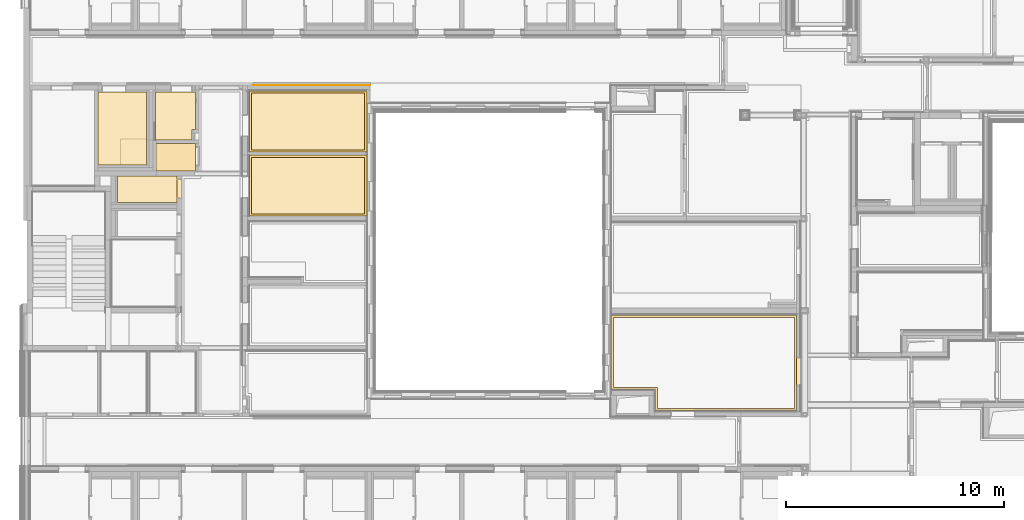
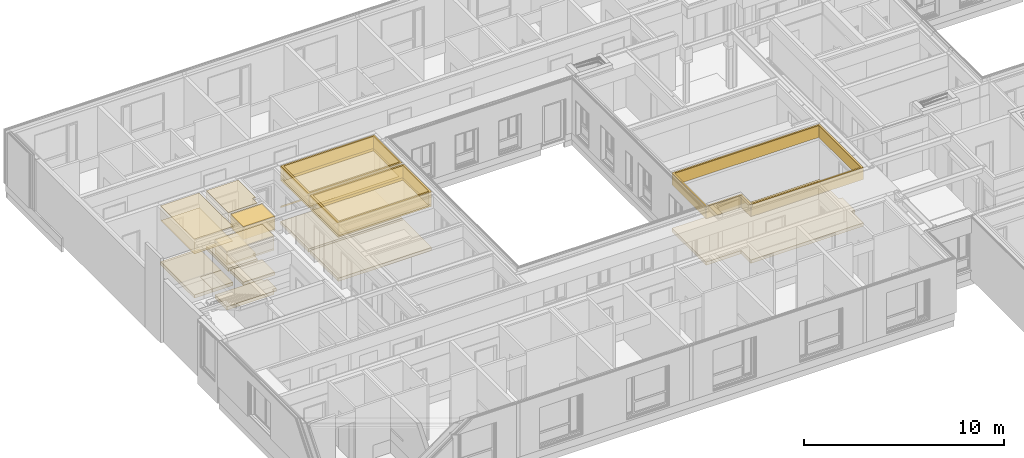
# One storey, part 163 of 207: 39 coverings.
"""IFC4 building model written with IfcOpenShell, lengths in metres."""

from ifc_helpers import new_model, entity, si_unit, converted_unit, derived_unit, frame, frame_2d, origin, origin_with_axes, place, context, subcontext, project, spatial, polyline, rectangle, outline, extrude, material, layer, layer_set, layer_usage, element, save


model = new_model("IFC4")

# Units and contexts
model_context = context("Model", 3, precision=1e-05, world=origin())
body_context = subcontext(model_context, "Body", "Model", "MODEL_VIEW")
ifc_project = project(units=[si_unit("LENGTHUNIT", "METRE"), si_unit("AREAUNIT", "SQUARE_METRE"), si_unit("VOLUMEUNIT", "CUBIC_METRE"), si_unit("MASSUNIT", "GRAM", prefix="KILO"), converted_unit("PLANEANGLEUNIT", "DEGREE", entity("IfcPlaneAngleMeasure", 0.0174532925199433), si_unit("PLANEANGLEUNIT", "RADIAN"), dimensions=[0, 0, 0, 0, 0, 0, 0]), derived_unit("THERMALTRANSMITTANCEUNIT", [(si_unit("POWERUNIT", "WATT"), 1), (si_unit("THERMODYNAMICTEMPERATUREUNIT", "KELVIN"), -1), (si_unit("LENGTHUNIT", "METRE"), -2)]), derived_unit("VOLUMETRICFLOWRATEUNIT", [(si_unit("LENGTHUNIT", "METRE"), 3), (converted_unit("TIMEUNIT", "hour", entity("IfcTimeMeasure", 3600.0), si_unit("TIMEUNIT", "SECOND"), dimensions=[0, 0, 1, 0, 0, 0, 0]), -1), (si_unit("LENGTHUNIT", "METRE"), -1)])], contexts=[model_context])

# Site, building, storey, space
site_placement = place(None, origin())
site = spatial("IfcSite", under=ifc_project, at=site_placement, Name="Psychiatrie Neubau Wunstorf", CompositionType="ELEMENT")
building_placement = place(site_placement, origin())
building = spatial("IfcBuilding", under=site, at=building_placement, Name="Neubau H2 Stationsgebäude", CompositionType="ELEMENT")
storey_placement = place(building_placement, frame((0.0, 0.0, -0.2)))
storey = spatial("IfcBuildingStorey", under=building, at=storey_placement, Name="H2 Ebene 0", CompositionType="ELEMENT", Elevation=-0.2)
space_1_placement = place(storey_placement, frame((0.169000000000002, 21.036, 0.0)))
space_1 = spatial("IfcSpace", under=storey, at=space_1_placement, Name="WUN-H2-E00-F06", CompositionType="ELEMENT")

# Covering
ifc_material_1 = material(Name="97")
ifc_layer_1 = layer(ifc_material_1, 0.001)
ifc_layer_set_1 = layer_set([ifc_layer_1])
ifc_layer_usage_1 = layer_usage(ifc_layer_set_1, "AXIS3", "POSITIVE", 0.0)
covering_1_placement = place(space_1_placement, frame((10.241, 0.8, 0.8)))
element("IfcCovering", 1, at=covering_1_placement, inside=space_1, material=ifc_layer_usage_1, Name="Handlauf", PredefinedType="CLADDING", context=body_context, shape_type="SweptSolid", body=[
    extrude(rectangle(XDim=0.1, YDim=5.379, at=frame_2d((-2.6895, -0.05), x_axis=(0.0, -1.0))), frame((5.379, 0.0, 0.0), z_axis=(0.0, 1.0, 0.0), x_axis=(1.0, 0.0, 0.0)), (0.0, 0.0, 1.0), 0.001),
])

# Space
space_2_placement = place(storey_placement, frame((5.95511096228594, 17.8860132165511, 0.0)))
space_2 = spatial("IfcSpace", under=storey, at=space_2_placement, Name="WUN-H2-E00-032", CompositionType="ELEMENT")

# Coverings
ifc_material_2 = material()
ifc_layer_2 = layer(ifc_material_2, 0.036)
ifc_layer_set_2 = layer_set([ifc_layer_2])
ifc_layer_usage_2 = layer_usage(ifc_layer_set_2, "AXIS3", "POSITIVE", 0.0)
covering_2_placement = place(space_2_placement, frame((0.0, 0.0, 3.6)))
element("IfcCovering", 2, at=covering_2_placement, inside=space_2, material=ifc_layer_usage_2, Name="Gipsfaserplatten 2-lagig (BSK)", PredefinedType="CEILING", context=body_context, shape_type="SweptSolid", body=[
    extrude(rectangle(XDim=1.27899724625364, YDim=1.81998678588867, at=frame_2d((-0.909993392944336, 0.639498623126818), x_axis=(0.0, 1.0))), frame((1.81998678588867, 1.27899724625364, 0.0), z_axis=(0.0, 0.0, -1.0), x_axis=(1.0, 0.0, 0.0)), (0.0, 0.0, 1.0), 0.036),
])
ifc_material_3 = material(Name="Installationshöhe")
ifc_layer_3 = layer(ifc_material_3, 0.764)
ifc_layer_set_3 = layer_set([ifc_layer_3])
ifc_layer_usage_3 = layer_usage(ifc_layer_set_3, "AXIS3", "POSITIVE", 0.0)
covering_3_placement = place(space_2_placement, frame((0.0, 0.0, 3.564)))
element("IfcCovering", 3, at=covering_3_placement, inside=space_2, material=ifc_layer_usage_3, Name="Gipsfaserplatten 2-lagig (BSK)", PredefinedType="CEILING", context=body_context, shape_type="SweptSolid", body=[
    extrude(rectangle(XDim=1.27899724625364, YDim=1.81998678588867, at=frame_2d((-0.909993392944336, 0.639498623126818), x_axis=(0.0, 1.0))), frame((1.81998678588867, 1.27899724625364, 0.0), z_axis=(0.0, 0.0, -1.0), x_axis=(1.0, 0.0, 0.0)), (0.0, 0.0, 1.0), 0.764),
])
ifc_material_4 = material(Name="E3")
ifc_layer_4 = layer(ifc_material_4, 0.1)
ifc_layer_set_4 = layer_set([ifc_layer_4])
ifc_layer_usage_4 = layer_usage(ifc_layer_set_4, "AXIS3", "POSITIVE", 0.0)
covering_4_placement = place(space_2_placement, frame((0.0, 0.0, 2.8)))
element("IfcCovering", 4, at=covering_4_placement, inside=space_2, material=ifc_layer_usage_4, Name="Rasterdecke", PredefinedType="CEILING", context=body_context, shape_type="SweptSolid", body=[
    extrude(rectangle(XDim=1.27899724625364, YDim=1.81998678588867, at=frame_2d((-0.909993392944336, 0.639498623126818), x_axis=(0.0, 1.0))), frame((1.81998678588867, 1.27899724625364, 0.0), z_axis=(0.0, 0.0, -1.0), x_axis=(1.0, 0.0, 0.0)), (0.0, 0.0, 1.0), 0.1),
])
ifc_material_5 = material(Name="Ku2")
ifc_layer_5 = layer(ifc_material_5, 0.2)
ifc_layer_set_5 = layer_set([ifc_layer_5])
ifc_layer_usage_5 = layer_usage(ifc_layer_set_5, "AXIS3", "POSITIVE", 0.0)
covering_5_placement = place(space_2_placement, origin())
element("IfcCovering", 5, at=covering_5_placement, inside=space_2, material=ifc_layer_usage_5, Name="PVC Bahnenware Uni", PredefinedType="FLOORING", context=body_context, shape_type="SweptSolid", body=[
    extrude(rectangle(XDim=1.27899724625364, YDim=1.8199867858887, at=frame_2d((-0.909993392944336, 0.639498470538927), x_axis=(0.0, 1.0))), frame((1.81998678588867, 0.0, 0.0), z_axis=(0.0, 0.0, 1.0), x_axis=(1.0, 0.0, 0.0)), (0.0, 0.0, 1.0), 0.2),
])

# Space
space_3_placement = place(storey_placement, frame((4.18999999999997, 16.4520132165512, 0.0)))
space_3 = spatial("IfcSpace", under=storey, at=space_3_placement, Name="WUN-H2-E00-031", CompositionType="ELEMENT")

# Coverings
ifc_material_6 = material(Name="Installationshöhe")
ifc_layer_6 = layer(ifc_material_6, 0.764)
ifc_layer_set_6 = layer_set([ifc_layer_6])
ifc_layer_usage_6 = layer_usage(ifc_layer_set_6, "AXIS3", "POSITIVE", 0.0)
covering_6_placement = place(space_3_placement, frame((0.0, 0.0, 3.564)))
element("IfcCovering", 6, at=covering_6_placement, inside=space_3, material=ifc_layer_usage_6, Name="Gipsfaserplatten 2-lagig (BSK)", PredefinedType="CEILING", context=body_context, shape_type="SweptSolid", body=[
    extrude(rectangle(XDim=2.7189987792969, YDim=1.20199999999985, at=frame_2d((1.35949938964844, 0.600999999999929), x_axis=(1.0, 1.33798471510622e-15))), frame((0.0, 1.20199999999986, 0.0), z_axis=(0.0, 0.0, -1.0), x_axis=(1.0, 0.0, 0.0)), (0.0, 0.0, 1.0), 0.764),
])
ifc_material_7 = material(Name="E3")
ifc_layer_7 = layer(ifc_material_7, 0.1)
ifc_layer_set_7 = layer_set([ifc_layer_7])
ifc_layer_usage_7 = layer_usage(ifc_layer_set_7, "AXIS3", "POSITIVE", 0.0)
covering_7_placement = place(space_3_placement, frame((0.0, 0.0, 2.8)))
element("IfcCovering", 7, at=covering_7_placement, inside=space_3, material=ifc_layer_usage_7, Name="Rasterdecke", PredefinedType="CEILING", context=body_context, shape_type="SweptSolid", body=[
    extrude(rectangle(XDim=2.7189987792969, YDim=1.20199999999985, at=frame_2d((1.35949938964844, 0.600999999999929), x_axis=(1.0, 1.33798471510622e-15))), frame((0.0, 1.20199999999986, 0.0), z_axis=(0.0, 0.0, -1.0), x_axis=(1.0, 0.0, 0.0)), (0.0, 0.0, 1.0), 0.1),
])
ifc_material_8 = material(Name="Fl1")
ifc_layer_8 = layer(ifc_material_8, 0.2)
ifc_layer_set_8 = layer_set([ifc_layer_8])
ifc_layer_usage_8 = layer_usage(ifc_layer_set_8, "AXIS3", "POSITIVE", 0.0)
covering_8_placement = place(space_3_placement, origin())
element("IfcCovering", 8, at=covering_8_placement, inside=space_3, material=ifc_layer_usage_8, Name="Fliesen", PredefinedType="FLOORING", context=body_context, shape_type="SweptSolid", body=[
    extrude(rectangle(XDim=0.232, YDim=0.885, at=frame_2d((0.116, 0.4425), x_axis=(1.0, 0.0))), frame((2.7189987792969, 0.178001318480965, 0.0), z_axis=(0.0, 0.0, 1.0), x_axis=(1.0, 0.0, 0.0)), (0.0, 0.0, 1.0), 0.2),
    extrude(rectangle(XDim=2.7189987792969, YDim=1.20199999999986, at=frame_2d((-1.35949938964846, -0.600999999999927), x_axis=(-1.0, 1.33798471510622e-15))), frame((2.71899877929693, 1.20199999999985, 0.0), z_axis=(0.0, 0.0, 1.0), x_axis=(1.0, 0.0, 0.0)), (0.0, 0.0, 1.0), 0.2),
])

# Space
space_4_placement = place(storey_placement, frame((3.28900622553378, 18.1609747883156, 0.0)))
space_4 = spatial("IfcSpace", under=storey, at=space_4_placement, Name="WUN-H2-E00-039", CompositionType="ELEMENT")

# Coverings
ifc_material_9 = material(Name="Fl1")
ifc_layer_9 = layer(ifc_material_9, 0.2)
ifc_layer_set_9 = layer_set([ifc_layer_9])
ifc_layer_usage_9 = layer_usage(ifc_layer_set_9, "AXIS3", "POSITIVE", 0.0)
covering_9_placement = place(space_4_placement, origin())
element("IfcCovering", 9, at=covering_9_placement, inside=space_4, material=ifc_layer_usage_9, Name="Fliesen", PredefinedType="FLOORING", context=body_context, shape_type="SweptSolid", body=[
    extrude(outline(polyline([(2.23139340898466, 0.0), (2.23150193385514, 0.0), (2.23150193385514, 3.36802521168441), (0.0, 3.36802521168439), (0.0, 0.0), (1.03100120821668, 0.0), (1.03100120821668, 1.20000040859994), (2.23139340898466, 1.20000040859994), (2.23139340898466, 0.0)])), origin_with_axes(), (0.0, 0.0, 1.0), 0.2),
])
ifc_material_10 = material(Name="Fl2")
ifc_layer_10 = layer(ifc_material_10, 0.2)
ifc_layer_set_10 = layer_set([ifc_layer_10])
ifc_layer_usage_10 = layer_usage(ifc_layer_set_10, "AXIS3", "POSITIVE", 0.0)
covering_10_placement = place(space_4_placement, frame((1.03100120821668, 0.0, 0.0)))
element("IfcCovering", 10, at=covering_10_placement, inside=space_4, material=ifc_layer_usage_10, Name="Fliesen Mosaik", PredefinedType="FLOORING", context=body_context, shape_type="SweptSolid", body=[
    extrude(rectangle(XDim=1.20000040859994, YDim=1.20039220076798, at=frame_2d((0.600196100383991, -0.600000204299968), x_axis=(0.0, -1.0))), frame((0.0, 1.20000040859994, 0.0), z_axis=(0.0, 0.0, 1.0), x_axis=(1.0, 0.0, 0.0)), (0.0, 0.0, 1.0), 0.2),
])
ifc_material_11 = material()
ifc_layer_11 = layer(ifc_material_11, 0.036)
ifc_layer_set_11 = layer_set([ifc_layer_11])
ifc_layer_usage_11 = layer_usage(ifc_layer_set_11, "AXIS3", "POSITIVE", 0.0)
covering_11_placement = place(space_4_placement, frame((0.0, 0.0, 3.6)))
element("IfcCovering", 11, at=covering_11_placement, inside=space_4, material=ifc_layer_usage_11, Name="Gipsfaserplatten 2-lagig (BSK)", PredefinedType="CEILING", context=body_context, shape_type="SweptSolid", body=[
    extrude(rectangle(XDim=3.36802521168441, YDim=2.23150193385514, at=frame_2d((-1.11575096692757, 1.6840126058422), x_axis=(0.0, 1.0))), frame((2.23150193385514, 3.36802521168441, 0.0), z_axis=(0.0, 0.0, -1.0), x_axis=(1.0, 0.0, 0.0)), (0.0, 0.0, 1.0), 0.036),
])
ifc_material_12 = material(Name="Installationshöhe")
ifc_layer_12 = layer(ifc_material_12, 0.764)
ifc_layer_set_12 = layer_set([ifc_layer_12])
ifc_layer_usage_12 = layer_usage(ifc_layer_set_12, "AXIS3", "POSITIVE", 0.0)
covering_12_placement = place(space_4_placement, frame((0.0, 0.0, 3.564)))
element("IfcCovering", 12, at=covering_12_placement, inside=space_4, material=ifc_layer_usage_12, Name="Gipsfaserplatten 2-lagig (BSK)", PredefinedType="CEILING", context=body_context, shape_type="SweptSolid", body=[
    extrude(rectangle(XDim=3.36802521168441, YDim=2.23150193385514, at=frame_2d((-1.11575096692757, 1.6840126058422), x_axis=(0.0, 1.0))), frame((2.23150193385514, 3.36802521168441, 0.0), z_axis=(0.0, 0.0, -1.0), x_axis=(1.0, 0.0, 0.0)), (0.0, 0.0, 1.0), 0.764),
])
ifc_material_13 = material(Name="B")
ifc_layer_13 = layer(ifc_material_13, 0.1)
ifc_layer_set_13 = layer_set([ifc_layer_13])
ifc_layer_usage_13 = layer_usage(ifc_layer_set_13, "AXIS3", "POSITIVE", 0.0)
covering_13_placement = place(space_4_placement, frame((0.0, 0.0, 2.8)))
element("IfcCovering", 13, at=covering_13_placement, inside=space_4, material=ifc_layer_usage_13, Name="Gipskarton, imprägniert", PredefinedType="CEILING", context=body_context, shape_type="SweptSolid", body=[
    extrude(rectangle(XDim=3.36802521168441, YDim=2.23150193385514, at=frame_2d((-1.11575096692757, 1.6840126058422), x_axis=(0.0, 1.0))), frame((2.23150193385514, 3.36802521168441, 0.0), z_axis=(0.0, 0.0, -1.0), x_axis=(1.0, 0.0, 0.0)), (0.0, 0.0, 1.0), 0.1),
])
ifc_material_14 = material(Name="D1")
ifc_layer_14 = layer(ifc_material_14, 0.001)
ifc_layer_set_14 = layer_set([ifc_layer_14])
ifc_layer_usage_14 = layer_usage(ifc_layer_set_14, "AXIS3", "POSITIVE", 0.0)
covering_14_placement = place(space_4_placement, frame((0.0, 0.0, 2.7)))
element("IfcCovering", 14, at=covering_14_placement, inside=space_4, material=ifc_layer_usage_14, Name="Gipsfaserplatten 2-lagig (BSK)", PredefinedType="CEILING", context=body_context, shape_type="SweptSolid", body=[
    extrude(rectangle(XDim=3.36802521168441, YDim=2.23150193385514, at=frame_2d((-1.11575096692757, 1.6840126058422), x_axis=(0.0, 1.0))), frame((2.23150193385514, 3.36802521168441, 0.0), z_axis=(0.0, 0.0, -1.0), x_axis=(1.0, 0.0, 0.0)), (0.0, 0.0, 1.0), 0.001),
])

# Space
space_5_placement = place(storey_placement, frame((5.92050815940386, 19.3150163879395, 0.0)))
space_5 = spatial("IfcSpace", under=storey, at=space_5_placement, Name="WUN-H2-E00-038", CompositionType="ELEMENT")

# Coverings
ifc_material_15 = material()
ifc_layer_15 = layer(ifc_material_15, 0.036)
ifc_layer_set_15 = layer_set([ifc_layer_15])
ifc_layer_usage_15 = layer_usage(ifc_layer_set_15, "AXIS3", "POSITIVE", 0.0)
covering_15_placement = place(space_5_placement, frame((0.0, 0.0, 3.6)))
element("IfcCovering", 15, at=covering_15_placement, inside=space_5, material=ifc_layer_usage_15, Name="Gipsfaserplatten 2-lagig (BSK)", PredefinedType="CEILING", context=body_context, shape_type="SweptSolid", body=[
    extrude(outline(polyline([(0.0, 2.21398361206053), (0.0, 0.0), (1.85448534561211, 0.0), (1.85448534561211, 1.73898984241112), (1.67949184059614, 1.73898984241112), (1.67949184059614, 2.21398361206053), (0.0, 2.21398361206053)])), frame((0.0, 2.21398361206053, 0.0), z_axis=(0.0, 0.0, -1.0), x_axis=(1.0, 0.0, 0.0)), (0.0, 0.0, 1.0), 0.036),
])
ifc_material_16 = material(Name="Installationshöhe")
ifc_layer_16 = layer(ifc_material_16, 0.764)
ifc_layer_set_16 = layer_set([ifc_layer_16])
ifc_layer_usage_16 = layer_usage(ifc_layer_set_16, "AXIS3", "POSITIVE", 0.0)
covering_16_placement = place(space_5_placement, frame((0.0, 0.0, 3.564)))
element("IfcCovering", 16, at=covering_16_placement, inside=space_5, material=ifc_layer_usage_16, Name="Gipsfaserplatten 2-lagig (BSK)", PredefinedType="CEILING", context=body_context, shape_type="SweptSolid", body=[
    extrude(outline(polyline([(0.0, 2.21398361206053), (0.0, 0.0), (1.85448534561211, 0.0), (1.85448534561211, 1.73898984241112), (1.67949184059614, 1.73898984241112), (1.67949184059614, 2.21398361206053), (0.0, 2.21398361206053)])), frame((0.0, 2.21398361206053, 0.0), z_axis=(0.0, 0.0, -1.0), x_axis=(1.0, 0.0, 0.0)), (0.0, 0.0, 1.0), 0.764),
])
ifc_material_17 = material(Name="E3")
ifc_layer_17 = layer(ifc_material_17, 0.1)
ifc_layer_set_17 = layer_set([ifc_layer_17])
ifc_layer_usage_17 = layer_usage(ifc_layer_set_17, "AXIS3", "POSITIVE", 0.0)
covering_17_placement = place(space_5_placement, frame((0.0, 0.0, 2.8)))
element("IfcCovering", 17, at=covering_17_placement, inside=space_5, material=ifc_layer_usage_17, Name="Rasterdecke", PredefinedType="CEILING", context=body_context, shape_type="SweptSolid", body=[
    extrude(outline(polyline([(0.0, 2.21398361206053), (0.0, 0.0), (1.85448534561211, 0.0), (1.85448534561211, 1.73898984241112), (1.67949184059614, 1.73898984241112), (1.67949184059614, 2.21398361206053), (0.0, 2.21398361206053)])), frame((0.0, 2.21398361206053, 0.0), z_axis=(0.0, 0.0, -1.0), x_axis=(1.0, 0.0, 0.0)), (0.0, 0.0, 1.0), 0.1),
])
ifc_material_18 = material(Name="Ku2")
ifc_layer_18 = layer(ifc_material_18, 0.2)
ifc_layer_set_18 = layer_set([ifc_layer_18])
ifc_layer_usage_18 = layer_usage(ifc_layer_set_18, "AXIS3", "POSITIVE", 0.0)
covering_18_placement = place(space_5_placement, origin())
element("IfcCovering", 18, at=covering_18_placement, inside=space_5, material=ifc_layer_usage_18, Name="PVC Bahnenware Uni", PredefinedType="FLOORING", context=body_context, shape_type="SweptSolid", body=[
    extrude(outline(polyline([(0.0, 2.21398361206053), (0.0, 0.0), (1.67949184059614, 0.0), (1.67949184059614, 0.474993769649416), (1.85448534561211, 0.474993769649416), (1.85448534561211, 2.21398361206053), (0.0, 2.21398361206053)])), origin_with_axes(), (0.0, 0.0, 1.0), 0.2),
])

# Space
space_6_placement = place(storey_placement, frame((10.2390000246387, 15.8255, 0.0)))
space_6 = spatial("IfcSpace", under=storey, at=space_6_placement, Name="WUN-H2-E00-034", CompositionType="ELEMENT")

# Coverings
ifc_material_19 = material(Name="Ku1")
ifc_layer_19 = layer(ifc_material_19, 0.2)
ifc_layer_set_19 = layer_set([ifc_layer_19])
ifc_layer_usage_19 = layer_usage(ifc_layer_set_19, "AXIS3", "POSITIVE", 0.0)
covering_19_placement = place(space_6_placement, origin())
element("IfcCovering", 19, at=covering_19_placement, inside=space_6, material=ifc_layer_usage_19, Name="PVC Bahnenware Holzoptik", PredefinedType="FLOORING", context=body_context, shape_type="SweptSolid", body=[
    extrude(rectangle(XDim=2.7925, YDim=5.39999997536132, at=frame_2d((-2.69999998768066, 1.39625), x_axis=(0.0, 1.0))), frame((5.39999997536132, 0.0, 0.0), z_axis=(0.0, 0.0, 1.0), x_axis=(1.0, 0.0, 0.0)), (0.0, 0.0, 1.0), 0.2),
])
ifc_material_20 = material()
ifc_layer_20 = layer(ifc_material_20, 0.036)
ifc_layer_set_20 = layer_set([ifc_layer_20])
ifc_layer_usage_20 = layer_usage(ifc_layer_set_20, "AXIS3", "POSITIVE", 0.0)
covering_20_placement = place(space_6_placement, frame((0.0, 0.0, 3.6)))
element("IfcCovering", 20, at=covering_20_placement, inside=space_6, material=ifc_layer_usage_20, Name="Gipsfaserplatten 2-lagig (BSK)", PredefinedType="CEILING", context=body_context, shape_type="SweptSolid", body=[
    extrude(outline(polyline([(5.39999997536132, 0.0), (5.39999997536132, 2.79250000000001), (0.0, 2.7925), (0.0, 0.0), (5.39999997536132, 0.0)]), holes=[polyline([(0.1, 2.6925), (5.29999997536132, 2.69250000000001), (5.29999997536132, 0.100000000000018), (0.1, 0.100000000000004), (0.1, 2.6925)])]), frame((0.0, 2.79250000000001, 0.0), z_axis=(0.0, 0.0, -1.0), x_axis=(1.0, 0.0, 0.0)), (0.0, 0.0, 1.0), 0.036),
])
ifc_material_21 = material(Name="Installationshöhe")
ifc_layer_21 = layer(ifc_material_21, 0.714)
ifc_layer_set_21 = layer_set([ifc_layer_21])
ifc_layer_usage_21 = layer_usage(ifc_layer_set_21, "AXIS3", "POSITIVE", 0.0)
covering_21_placement = place(space_6_placement, frame((0.0, 0.0, 3.564)))
element("IfcCovering", 21, at=covering_21_placement, inside=space_6, material=ifc_layer_usage_21, Name="Gipsfaserplatten 2-lagig (BSK)", PredefinedType="CEILING", context=body_context, shape_type="SweptSolid", body=[
    extrude(outline(polyline([(5.39999997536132, 0.0), (5.39999997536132, 2.79250000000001), (0.0, 2.7925), (0.0, 0.0), (5.39999997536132, 0.0)]), holes=[polyline([(0.1, 2.6925), (5.29999997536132, 2.69250000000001), (5.29999997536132, 0.100000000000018), (0.1, 0.100000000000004), (0.1, 2.6925)])]), frame((0.0, 2.79250000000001, 0.0), z_axis=(0.0, 0.0, -1.0), x_axis=(1.0, 0.0, 0.0)), (0.0, 0.0, 1.0), 0.714),
])
ifc_material_22 = material(Name="A1")
ifc_layer_22 = layer(ifc_material_22, 0.15)
ifc_layer_set_22 = layer_set([ifc_layer_22])
ifc_layer_usage_22 = layer_usage(ifc_layer_set_22, "AXIS3", "POSITIVE", 0.0)
covering_22_placement = place(space_6_placement, frame((0.0, 0.0, 2.85)))
element("IfcCovering", 22, at=covering_22_placement, inside=space_6, material=ifc_layer_usage_22, Name="Gipsfaserplatten 2-lagig (BSK)", PredefinedType="CEILING", context=body_context, shape_type="SweptSolid", body=[
    extrude(outline(polyline([(5.39999997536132, 0.0), (5.39999997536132, 2.79250000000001), (0.0, 2.7925), (0.0, 0.0), (5.39999997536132, 0.0)]), holes=[polyline([(0.1, 2.6925), (5.29999997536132, 2.69250000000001), (5.29999997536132, 0.100000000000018), (0.1, 0.100000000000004), (0.1, 2.6925)])]), frame((0.0, 2.79250000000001, 0.0), z_axis=(0.0, 0.0, -1.0), x_axis=(1.0, 0.0, 0.0)), (0.0, 0.0, 1.0), 0.15),
])
ifc_material_23 = material(Name="D1")
ifc_layer_23 = layer(ifc_material_23, 0.001)
ifc_layer_set_23 = layer_set([ifc_layer_23])
ifc_layer_usage_23 = layer_usage(ifc_layer_set_23, "AXIS3", "POSITIVE", 0.0)
covering_23_placement = place(space_6_placement, frame((0.0, 0.0, 2.7)))
element("IfcCovering", 23, at=covering_23_placement, inside=space_6, material=ifc_layer_usage_23, Name="Gipsfaserplatten 2-lagig (BSK)", PredefinedType="CEILING", context=body_context, shape_type="SweptSolid", body=[
    extrude(outline(polyline([(5.39999997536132, 0.0), (5.39999997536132, 2.79250000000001), (0.0, 2.7925), (0.0, 0.0), (5.39999997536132, 0.0)]), holes=[polyline([(0.1, 2.6925), (5.29999997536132, 2.69250000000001), (5.29999997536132, 0.100000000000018), (0.1, 0.100000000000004), (0.1, 2.6925)])]), frame((0.0, 2.79250000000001, 0.0), z_axis=(0.0, 0.0, -1.0), x_axis=(1.0, 0.0, 0.0)), (0.0, 0.0, 1.0), 0.001),
])
ifc_material_24 = material()
ifc_layer_24 = layer(ifc_material_24, 0.036)
ifc_layer_set_24 = layer_set([ifc_layer_24])
ifc_layer_usage_24 = layer_usage(ifc_layer_set_24, "AXIS3", "POSITIVE", 0.0)
covering_24_placement = place(space_6_placement, frame((0.1, 0.0999999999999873, 3.6)))
element("IfcCovering", 24, at=covering_24_placement, inside=space_6, material=ifc_layer_usage_24, Name="Gipsfaserplatten 2-lagig (BSK)", PredefinedType="CEILING", context=body_context, shape_type="SweptSolid", body=[
    extrude(rectangle(XDim=2.5925, YDim=5.19999997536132, at=frame_2d((2.59999998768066, -1.29624999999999), x_axis=(0.0, -1.0))), frame((0.0, 0.0, 0.0), z_axis=(0.0, 0.0, -1.0), x_axis=(1.0, 0.0, 0.0)), (0.0, 0.0, 1.0), 0.036),
])
ifc_material_25 = material(Name="Installationshöhe")
ifc_layer_25 = layer(ifc_material_25, 0.714)
ifc_layer_set_25 = layer_set([ifc_layer_25])
ifc_layer_usage_25 = layer_usage(ifc_layer_set_25, "AXIS3", "POSITIVE", 0.0)
covering_25_placement = place(space_6_placement, frame((0.1, 0.0999999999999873, 3.564)))
element("IfcCovering", 25, at=covering_25_placement, inside=space_6, material=ifc_layer_usage_25, Name="Gipsfaserplatten 2-lagig (BSK)", PredefinedType="CEILING", context=body_context, shape_type="SweptSolid", body=[
    extrude(rectangle(XDim=2.5925, YDim=5.19999997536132, at=frame_2d((2.59999998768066, -1.29624999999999), x_axis=(0.0, -1.0))), frame((0.0, 0.0, 0.0), z_axis=(0.0, 0.0, -1.0), x_axis=(1.0, 0.0, 0.0)), (0.0, 0.0, 1.0), 0.714),
])
ifc_material_26 = material(Name="Aa")
ifc_layer_26 = layer(ifc_material_26, 0.15)
ifc_layer_set_26 = layer_set([ifc_layer_26])
ifc_layer_usage_26 = layer_usage(ifc_layer_set_26, "AXIS3", "POSITIVE", 0.0)
covering_26_placement = place(space_6_placement, frame((0.1, 0.0999999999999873, 2.85)))
element("IfcCovering", 26, at=covering_26_placement, inside=space_6, material=ifc_layer_usage_26, Name="Gipsfaserplatten 2-lagig (BSK)", PredefinedType="CEILING", context=body_context, shape_type="SweptSolid", body=[
    extrude(rectangle(XDim=2.5925, YDim=5.19999997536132, at=frame_2d((2.59999998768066, -1.29624999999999), x_axis=(0.0, -1.0))), frame((0.0, 0.0, 0.0), z_axis=(0.0, 0.0, -1.0), x_axis=(1.0, 0.0, 0.0)), (0.0, 0.0, 1.0), 0.15),
])
ifc_material_27 = material(Name="D1")
ifc_layer_27 = layer(ifc_material_27, 0.001)
ifc_layer_set_27 = layer_set([ifc_layer_27])
ifc_layer_usage_27 = layer_usage(ifc_layer_set_27, "AXIS3", "POSITIVE", 0.0)
covering_27_placement = place(space_6_placement, frame((0.1, 0.0999999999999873, 2.7)))
element("IfcCovering", 27, at=covering_27_placement, inside=space_6, material=ifc_layer_usage_27, Name="Gipsfaserplatten 2-lagig (BSK)", PredefinedType="CEILING", context=body_context, shape_type="SweptSolid", body=[
    extrude(rectangle(XDim=2.5925, YDim=5.19999997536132, at=frame_2d((2.59999998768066, -1.29624999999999), x_axis=(0.0, -1.0))), frame((0.0, 0.0, 0.0), z_axis=(0.0, 0.0, -1.0), x_axis=(1.0, 0.0, 0.0)), (0.0, 0.0, 1.0), 0.001),
])

# Space
space_7_placement = place(storey_placement, frame((10.2390000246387, 18.768, 0.0)))
space_7 = spatial("IfcSpace", under=storey, at=space_7_placement, Name="WUN-H2-E00-033", CompositionType="ELEMENT")

# Coverings
ifc_material_28 = material(Name="Ku1")
ifc_layer_28 = layer(ifc_material_28, 0.2)
ifc_layer_set_28 = layer_set([ifc_layer_28])
ifc_layer_usage_28 = layer_usage(ifc_layer_set_28, "AXIS3", "POSITIVE", 0.0)
covering_28_placement = place(space_7_placement, origin())
element("IfcCovering", 28, at=covering_28_placement, inside=space_7, material=ifc_layer_usage_28, Name="PVC Bahnenware Holzoptik", PredefinedType="FLOORING", context=body_context, shape_type="SweptSolid", body=[
    extrude(rectangle(XDim=2.79599999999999, YDim=5.39999997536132, at=frame_2d((2.69999998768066, -1.39799999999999), x_axis=(0.0, -1.0))), frame((0.0, 2.79599999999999, 0.0), z_axis=(0.0, 0.0, 1.0), x_axis=(1.0, 0.0, 0.0)), (0.0, 0.0, 1.0), 0.2),
])
ifc_material_29 = material()
ifc_layer_29 = layer(ifc_material_29, 0.036)
ifc_layer_set_29 = layer_set([ifc_layer_29])
ifc_layer_usage_29 = layer_usage(ifc_layer_set_29, "AXIS3", "POSITIVE", 0.0)
covering_29_placement = place(space_7_placement, frame((0.0, 0.0, 3.6)))
element("IfcCovering", 29, at=covering_29_placement, inside=space_7, material=ifc_layer_usage_29, Name="Gipsfaserplatten 2-lagig (BSK)", PredefinedType="CEILING", context=body_context, shape_type="SweptSolid", body=[
    extrude(outline(polyline([(5.39999997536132, 0.0), (5.39999997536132, 2.796), (0.0, 2.79599999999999), (0.0, 0.0), (5.39999997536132, 0.0)]), holes=[polyline([(5.29999997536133, 2.696), (5.29999997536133, 0.100000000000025), (0.1, 0.100000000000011), (0.1, 2.69599999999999), (5.29999997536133, 2.696)])]), frame((0.0, 2.796, 0.0), z_axis=(0.0, 0.0, -1.0), x_axis=(1.0, 0.0, 0.0)), (0.0, 0.0, 1.0), 0.036),
])
ifc_material_30 = material(Name="Installationshöhe")
ifc_layer_30 = layer(ifc_material_30, 0.714)
ifc_layer_set_30 = layer_set([ifc_layer_30])
ifc_layer_usage_30 = layer_usage(ifc_layer_set_30, "AXIS3", "POSITIVE", 0.0)
covering_30_placement = place(space_7_placement, frame((0.0, 0.0, 3.564)))
element("IfcCovering", 30, at=covering_30_placement, inside=space_7, material=ifc_layer_usage_30, Name="Gipsfaserplatten 2-lagig (BSK)", PredefinedType="CEILING", context=body_context, shape_type="SweptSolid", body=[
    extrude(outline(polyline([(5.39999997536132, 0.0), (5.39999997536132, 2.796), (0.0, 2.79599999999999), (0.0, 0.0), (5.39999997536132, 0.0)]), holes=[polyline([(5.29999997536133, 2.696), (5.29999997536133, 0.100000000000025), (0.1, 0.100000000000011), (0.1, 2.69599999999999), (5.29999997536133, 2.696)])]), frame((0.0, 2.796, 0.0), z_axis=(0.0, 0.0, -1.0), x_axis=(1.0, 0.0, 0.0)), (0.0, 0.0, 1.0), 0.714),
])
ifc_material_31 = material(Name="A1")
ifc_layer_31 = layer(ifc_material_31, 0.15)
ifc_layer_set_31 = layer_set([ifc_layer_31])
ifc_layer_usage_31 = layer_usage(ifc_layer_set_31, "AXIS3", "POSITIVE", 0.0)
covering_31_placement = place(space_7_placement, frame((0.0, 0.0, 2.85)))
element("IfcCovering", 31, at=covering_31_placement, inside=space_7, material=ifc_layer_usage_31, Name="Gipsfaserplatten 2-lagig (BSK)", PredefinedType="CEILING", context=body_context, shape_type="SweptSolid", body=[
    extrude(outline(polyline([(5.39999997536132, 0.0), (5.39999997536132, 2.796), (0.0, 2.79599999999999), (0.0, 0.0), (5.39999997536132, 0.0)]), holes=[polyline([(5.29999997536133, 2.696), (5.29999997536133, 0.100000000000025), (0.1, 0.100000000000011), (0.1, 2.69599999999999), (5.29999997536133, 2.696)])]), frame((0.0, 2.796, 0.0), z_axis=(0.0, 0.0, -1.0), x_axis=(1.0, 0.0, 0.0)), (0.0, 0.0, 1.0), 0.15),
])
ifc_material_32 = material(Name="D1")
ifc_layer_32 = layer(ifc_material_32, 0.001)
ifc_layer_set_32 = layer_set([ifc_layer_32])
ifc_layer_usage_32 = layer_usage(ifc_layer_set_32, "AXIS3", "POSITIVE", 0.0)
covering_32_placement = place(space_7_placement, frame((0.0, 0.0, 2.7)))
element("IfcCovering", 32, at=covering_32_placement, inside=space_7, material=ifc_layer_usage_32, Name="Gipsfaserplatten 2-lagig (BSK)", PredefinedType="CEILING", context=body_context, shape_type="SweptSolid", body=[
    extrude(outline(polyline([(5.39999997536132, 0.0), (5.39999997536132, 2.796), (0.0, 2.79599999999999), (0.0, 0.0), (5.39999997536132, 0.0)]), holes=[polyline([(5.29999997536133, 2.696), (5.29999997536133, 0.100000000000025), (0.1, 0.100000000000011), (0.1, 2.69599999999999), (5.29999997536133, 2.696)])]), frame((0.0, 2.796, 0.0), z_axis=(0.0, 0.0, -1.0), x_axis=(1.0, 0.0, 0.0)), (0.0, 0.0, 1.0), 0.001),
])
ifc_material_33 = material()
ifc_layer_33 = layer(ifc_material_33, 0.036)
ifc_layer_set_33 = layer_set([ifc_layer_33])
ifc_layer_usage_33 = layer_usage(ifc_layer_set_33, "AXIS3", "POSITIVE", 0.0)
covering_33_placement = place(space_7_placement, frame((0.1, 0.0999999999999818, 3.6)))
element("IfcCovering", 33, at=covering_33_placement, inside=space_7, material=ifc_layer_usage_33, Name="Gipsfaserplatten 2-lagig (BSK)", PredefinedType="CEILING", context=body_context, shape_type="SweptSolid", body=[
    extrude(rectangle(XDim=5.19999997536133, YDim=2.59599999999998, at=frame_2d((2.59999998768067, 1.298), x_axis=(1.0, 2.798445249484e-15))), frame((0.0, 2.59599999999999, 0.0), z_axis=(0.0, 0.0, -1.0), x_axis=(1.0, 0.0, 0.0)), (0.0, 0.0, 1.0), 0.036),
])
ifc_material_34 = material(Name="Installationshöhe")
ifc_layer_34 = layer(ifc_material_34, 0.714)
ifc_layer_set_34 = layer_set([ifc_layer_34])
ifc_layer_usage_34 = layer_usage(ifc_layer_set_34, "AXIS3", "POSITIVE", 0.0)
covering_34_placement = place(space_7_placement, frame((0.1, 0.0999999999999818, 3.564)))
element("IfcCovering", 34, at=covering_34_placement, inside=space_7, material=ifc_layer_usage_34, Name="Gipsfaserplatten 2-lagig (BSK)", PredefinedType="CEILING", context=body_context, shape_type="SweptSolid", body=[
    extrude(rectangle(XDim=5.19999997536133, YDim=2.59599999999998, at=frame_2d((2.59999998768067, 1.298), x_axis=(1.0, 2.798445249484e-15))), frame((0.0, 2.59599999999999, 0.0), z_axis=(0.0, 0.0, -1.0), x_axis=(1.0, 0.0, 0.0)), (0.0, 0.0, 1.0), 0.714),
])
ifc_material_35 = material(Name="Aa")
ifc_layer_35 = layer(ifc_material_35, 0.15)
ifc_layer_set_35 = layer_set([ifc_layer_35])
ifc_layer_usage_35 = layer_usage(ifc_layer_set_35, "AXIS3", "POSITIVE", 0.0)
covering_35_placement = place(space_7_placement, frame((0.1, 0.0999999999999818, 2.85)))
element("IfcCovering", 35, at=covering_35_placement, inside=space_7, material=ifc_layer_usage_35, Name="Gipsfaserplatten 2-lagig (BSK)", PredefinedType="CEILING", context=body_context, shape_type="SweptSolid", body=[
    extrude(rectangle(XDim=5.19999997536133, YDim=2.59599999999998, at=frame_2d((2.59999998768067, 1.298), x_axis=(1.0, 2.798445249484e-15))), frame((0.0, 2.59599999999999, 0.0), z_axis=(0.0, 0.0, -1.0), x_axis=(1.0, 0.0, 0.0)), (0.0, 0.0, 1.0), 0.15),
])
ifc_material_36 = material(Name="D1")
ifc_layer_36 = layer(ifc_material_36, 0.001)
ifc_layer_set_36 = layer_set([ifc_layer_36])
ifc_layer_usage_36 = layer_usage(ifc_layer_set_36, "AXIS3", "POSITIVE", 0.0)
covering_36_placement = place(space_7_placement, frame((0.1, 0.0999999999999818, 2.7)))
element("IfcCovering", 36, at=covering_36_placement, inside=space_7, material=ifc_layer_usage_36, Name="Gipsfaserplatten 2-lagig (BSK)", PredefinedType="CEILING", context=body_context, shape_type="SweptSolid", body=[
    extrude(rectangle(XDim=5.19999997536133, YDim=2.59599999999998, at=frame_2d((2.59999998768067, 1.298), x_axis=(1.0, 2.798445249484e-15))), frame((0.0, 2.59599999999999, 0.0), z_axis=(0.0, 0.0, -1.0), x_axis=(1.0, 0.0, 0.0)), (0.0, 0.0, 1.0), 0.001),
])

# Space
space_8_placement = place(storey_placement, frame((26.861, 6.88399999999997, 0.0)))
space_8 = spatial("IfcSpace", under=storey, at=space_8_placement, Name="WUN-H2-E00-004", CompositionType="ELEMENT")

# Coverings
ifc_material_37 = material(Name="Ku1")
ifc_layer_37 = layer(ifc_material_37, 0.2)
ifc_layer_set_37 = layer_set([ifc_layer_37])
ifc_layer_usage_37 = layer_usage(ifc_layer_set_37, "AXIS3", "POSITIVE", 0.0)
covering_37_placement = place(space_8_placement, origin())
element("IfcCovering", 37, at=covering_37_placement, inside=space_8, material=ifc_layer_usage_37, Name="PVC Bahnenware Holzoptik", PredefinedType="FLOORING", context=body_context, shape_type="SweptSolid", body=[
    extrude(rectangle(XDim=0.19, YDim=1.26, at=frame_2d((-0.095, -0.63), x_axis=(-1.0, 0.0))), frame((8.70900000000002, 2.42600413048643, 0.0), z_axis=(0.0, 0.0, 1.0), x_axis=(1.0, 0.0, 0.0)), (0.0, 0.0, 1.0), 0.2),
    extrude(outline(polyline([(0.0, 0.970999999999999), (2.01900000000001, 0.970999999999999), (2.01900000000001, 0.0), (8.51900000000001, 0.0), (8.51900000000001, 4.38355754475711), (0.0, 4.38355754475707), (0.0, 0.970999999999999)])), origin_with_axes(), (0.0, 0.0, 1.0), 0.2),
])
ifc_material_38 = material()
ifc_layer_38 = layer(ifc_material_38, 0.036)
ifc_layer_set_38 = layer_set([ifc_layer_38])
ifc_layer_usage_38 = layer_usage(ifc_layer_set_38, "AXIS3", "POSITIVE", 0.0)
covering_38_placement = place(space_8_placement, frame((0.0, 0.0, 3.6)))
element("IfcCovering", 38, at=covering_38_placement, inside=space_8, material=ifc_layer_usage_38, Name="Gipsfaserplatten 2-lagig (BSK)", PredefinedType="CEILING", context=body_context, shape_type="SweptSolid", body=[
    extrude(outline(polyline([(0.0, 0.0), (8.51900000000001, 0.0), (8.51900000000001, 4.38355754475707), (2.01900000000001, 4.38355754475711), (2.01900000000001, 3.41255754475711), (0.0, 3.41255754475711), (0.0, 0.0)]), holes=[polyline([(2.11900000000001, 3.31255754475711), (2.11900000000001, 4.28355754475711), (8.41900000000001, 4.28355754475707), (8.41900000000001, 0.1), (0.100000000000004, 0.100000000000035), (0.100000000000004, 3.31255754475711), (2.11900000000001, 3.31255754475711)])]), frame((0.0, 4.38355754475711, 0.0), z_axis=(0.0, 0.0, -1.0), x_axis=(1.0, 0.0, 0.0)), (0.0, 0.0, 1.0), 0.036),
])
ifc_material_39 = material(Name="Installationshöhe")
ifc_layer_39 = layer(ifc_material_39, 0.714)
ifc_layer_set_39 = layer_set([ifc_layer_39])
ifc_layer_usage_39 = layer_usage(ifc_layer_set_39, "AXIS3", "POSITIVE", 0.0)
covering_39_placement = place(space_8_placement, frame((0.0, 0.0, 3.564)))
element("IfcCovering", 39, at=covering_39_placement, inside=space_8, material=ifc_layer_usage_39, Name="Gipsfaserplatten 2-lagig (BSK)", PredefinedType="CEILING", context=body_context, shape_type="SweptSolid", body=[
    extrude(outline(polyline([(0.0, 0.0), (8.51900000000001, 0.0), (8.51900000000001, 4.38355754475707), (2.01900000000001, 4.38355754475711), (2.01900000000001, 3.41255754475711), (0.0, 3.41255754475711), (0.0, 0.0)]), holes=[polyline([(2.11900000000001, 3.31255754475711), (2.11900000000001, 4.28355754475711), (8.41900000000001, 4.28355754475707), (8.41900000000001, 0.1), (0.100000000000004, 0.100000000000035), (0.100000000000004, 3.31255754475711), (2.11900000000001, 3.31255754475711)])]), frame((0.0, 4.38355754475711, 0.0), z_axis=(0.0, 0.0, -1.0), x_axis=(1.0, 0.0, 0.0)), (0.0, 0.0, 1.0), 0.714),
])

save(model, "model.ifc")
